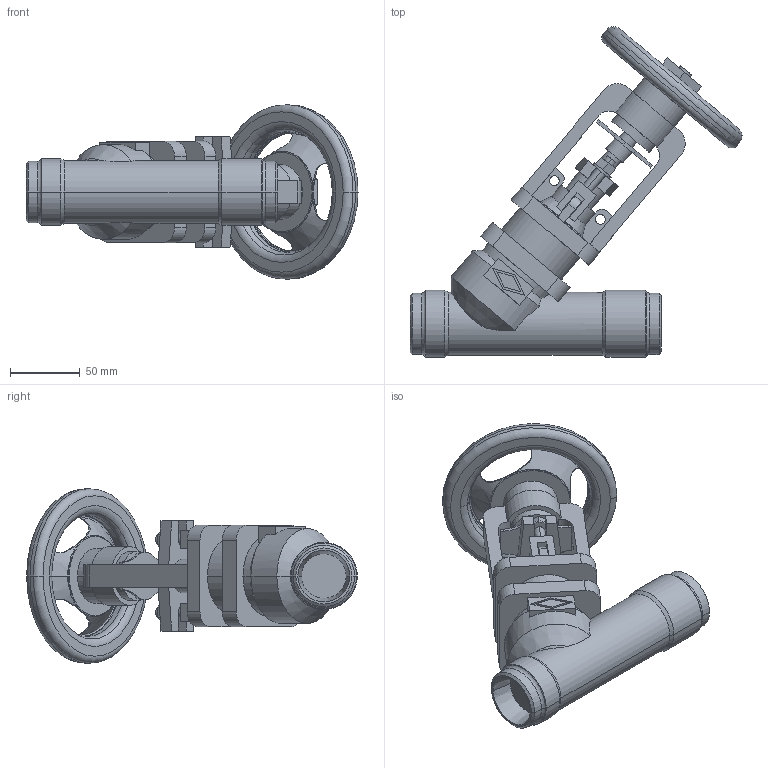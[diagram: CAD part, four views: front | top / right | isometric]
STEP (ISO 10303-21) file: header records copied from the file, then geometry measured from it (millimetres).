
FILE_DESCRIPTION(('OneSpaceDesigner STEP Export'),'2;1');
FILE_NAME('c000004349.stp','2010-05-10T10:56:43',(''),(''),'OneSpace Designer STEP processor for AP214 (Solid Model)','OneSpace Modeling 15.50B 03-Nov-2007 (C) CoCreate Software GmbH','');
FILE_SCHEMA(('AUTOMOTIVE_DESIGN { 1 0 10303 214 1 1 1 1 }'));
Length unit declared in the file: millimetre
Products named in the file (1): 1
Bounding box: 237.91 x 236.97 x 125 mm (x, y, z)
Volume: 811559.3 mm3; surface area: 126904.2 mm2
Topology: 1 solids, 1 shells, 290 faces, 761 edges, 491 vertices
Faces by surface type: plane 136, cylinder 93, cone 31, torus 30
Entity records: 11253 total; most frequent: CARTESIAN_POINT 2156, ORIENTED_EDGE 1522, DIRECTION 1271, EDGE_CURVE 761, VERTEX_POINT 491, AXIS2_PLACEMENT_3D 428, VECTOR 415, LINE 415
